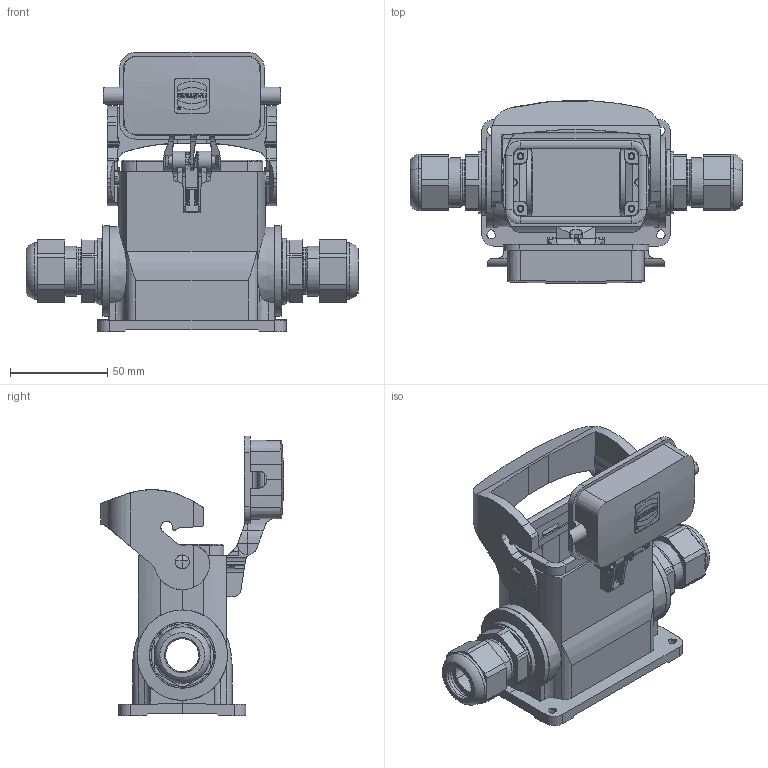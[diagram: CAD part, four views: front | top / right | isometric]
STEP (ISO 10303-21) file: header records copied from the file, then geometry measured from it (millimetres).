
FILE_DESCRIPTION(/* description */ (''),/* implementation_level */ '2;1');
FILE_NAME(/* name */ '100749961ugm000_d.stp',/* time_stamp */ '2022-07-06T15:37:46+02:00',/* author */ (''),/* organization */ (''),/* preprocessor_version */ 'ST-DEVELOPER v16.7',/* originating_system */ 'SIEMENS PLM Software NX 1911',/* authorisation */ '');
FILE_SCHEMA (('AUTOMOTIVE_DESIGN { 1 0 10303 214 3 1 1 1 }'));
Length unit declared in the file: millimetre
Products named in the file (1): 100749961ugm000_d
Bounding box: 170.3 x 93.92 x 143.5 mm (x, y, z)
Volume: 48057.5 mm3; surface area: 99824.6 mm2
Topology: 2 solids, 624 shells, 977 faces, 4355 edges, 3989 vertices
Faces by surface type: plane 602, cylinder 245, cone 96, bspline 15, torus 12, extrusion 7
Full cylindrical faces by diameter (mm): 1.006 x1, 1.477 x1, 2.5 x4, 3.5 x4, 4.8 x2, 7.2 x2, 25 x2, 30 x2, 46.4 x2
Entity records: 53619 total; most frequent: CARTESIAN_POINT 12671, DIRECTION 7156, ORIENTED_EDGE 5284, EDGE_CURVE 4307, VERTEX_POINT 3972, VECTOR 2710, LINE 2703, AXIS2_PLACEMENT_3D 2223
